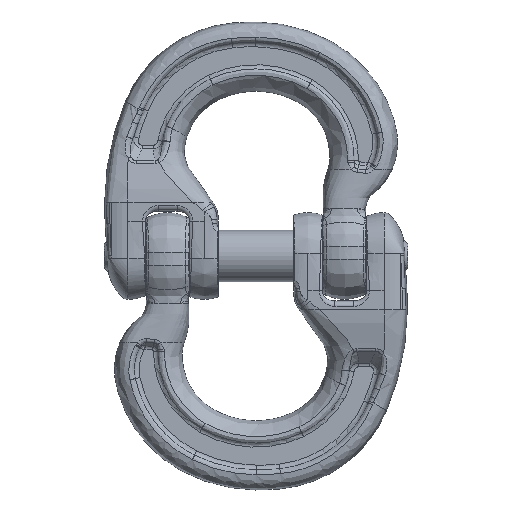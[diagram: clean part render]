
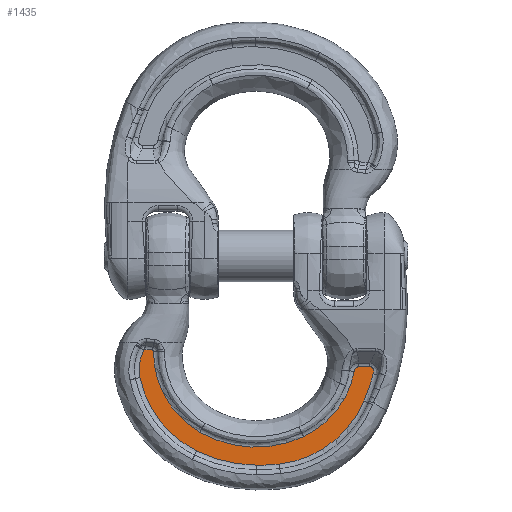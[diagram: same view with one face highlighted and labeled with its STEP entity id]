
A CAD part, top view. The second image highlights one B-rep face of the part: STEP entity #1435.
In plain terms, the highlighted planar face has unit normal (0, 0, 1).
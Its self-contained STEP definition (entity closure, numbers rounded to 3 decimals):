
#152=PLANE('',#7859);
#348=LINE('',#31555,#461);
#349=LINE('',#31604,#462);
#461=VECTOR('',#8761,1.);
#462=VECTOR('',#8774,1.);
#700=CIRCLE('',#7850,20.043);
#701=CIRCLE('',#7851,51.735);
#702=CIRCLE('',#7852,67.216);
#703=CIRCLE('',#7853,93.658);
#704=CIRCLE('',#7854,50.674);
#705=CIRCLE('',#7855,118.13);
#706=CIRCLE('',#7856,44.265);
#707=CIRCLE('',#7857,54.957);
#708=CIRCLE('',#7858,45.111);
#1435=ADVANCED_FACE('',(#1976),#152,.T.);
#1976=FACE_OUTER_BOUND('',#2477,.T.);
#2477=EDGE_LOOP('',(#4216,#4217,#4218,#4219,#4220,#4221,#4222,#4223,#4224,
#4225,#4226,#4227,#4228,#4229,#4230));
#4216=ORIENTED_EDGE('',*,*,#6508,.T.);
#4217=ORIENTED_EDGE('',*,*,#6509,.T.);
#4218=ORIENTED_EDGE('',*,*,#6510,.T.);
#4219=ORIENTED_EDGE('',*,*,#6511,.T.);
#4220=ORIENTED_EDGE('',*,*,#6512,.T.);
#4221=ORIENTED_EDGE('',*,*,#6513,.T.);
#4222=ORIENTED_EDGE('',*,*,#6514,.T.);
#4223=ORIENTED_EDGE('',*,*,#6515,.T.);
#4224=ORIENTED_EDGE('',*,*,#6516,.T.);
#4225=ORIENTED_EDGE('',*,*,#6517,.T.);
#4226=ORIENTED_EDGE('',*,*,#6518,.T.);
#4227=ORIENTED_EDGE('',*,*,#6519,.T.);
#4228=ORIENTED_EDGE('',*,*,#6520,.T.);
#4229=ORIENTED_EDGE('',*,*,#6521,.T.);
#4230=ORIENTED_EDGE('',*,*,#6522,.T.);
#5495=VERTEX_POINT('',#31556);
#5496=VERTEX_POINT('',#31557);
#5497=VERTEX_POINT('',#31571);
#5498=VERTEX_POINT('',#31573);
#5499=VERTEX_POINT('',#31575);
#5500=VERTEX_POINT('',#31577);
#5501=VERTEX_POINT('',#31579);
#5502=VERTEX_POINT('',#31581);
#5503=VERTEX_POINT('',#31583);
#5504=VERTEX_POINT('',#31603);
#5505=VERTEX_POINT('',#31605);
#5506=VERTEX_POINT('',#31622);
#5507=VERTEX_POINT('',#31624);
#5508=VERTEX_POINT('',#31626);
#5509=VERTEX_POINT('',#31628);
#6508=EDGE_CURVE('',#5495,#5496,#348,.T.);
#6509=EDGE_CURVE('',#5496,#5497,#7369,.T.);
#6510=EDGE_CURVE('',#5497,#5498,#700,.T.);
#6511=EDGE_CURVE('',#5498,#5499,#701,.T.);
#6512=EDGE_CURVE('',#5499,#5500,#702,.T.);
#6513=EDGE_CURVE('',#5500,#5501,#703,.T.);
#6514=EDGE_CURVE('',#5501,#5502,#704,.T.);
#6515=EDGE_CURVE('',#5502,#5503,#705,.T.);
#6516=EDGE_CURVE('',#5503,#5504,#7370,.T.);
#6517=EDGE_CURVE('',#5504,#5505,#349,.T.);
#6518=EDGE_CURVE('',#5505,#5506,#7371,.T.);
#6519=EDGE_CURVE('',#5506,#5507,#706,.T.);
#6520=EDGE_CURVE('',#5507,#5508,#707,.T.);
#6521=EDGE_CURVE('',#5508,#5509,#708,.T.);
#6522=EDGE_CURVE('',#5509,#5495,#7372,.T.);
#7369=B_SPLINE_CURVE_WITH_KNOTS('',3,(#31558,#31559,#31560,#31561,#31562,
#31563,#31564,#31565,#31566,#31567,#31568,#31569,#31570),.UNSPECIFIED.,.F.,
.F.,(4,3,3,3,4),(0.,0.112,0.326,0.593,
1.),.UNSPECIFIED.);
#7370=B_SPLINE_CURVE_WITH_KNOTS('',3,(#31584,#31585,#31586,#31587,#31588,
#31589,#31590,#31591,#31592,#31593,#31594,#31595,#31596,#31597,#31598,#31599,
#31600,#31601,#31602),.UNSPECIFIED.,.F.,.F.,(4,3,3,3,3,3,4),(0.,0.176,
0.427,0.601,0.722,0.856,
1.),.UNSPECIFIED.);
#7371=B_SPLINE_CURVE_WITH_KNOTS('',3,(#31606,#31607,#31608,#31609,#31610,
#31611,#31612,#31613,#31614,#31615,#31616,#31617,#31618,#31619,#31620,#31621),
.UNSPECIFIED.,.F.,.F.,(4,3,3,3,3,4),(0.,0.037,0.205,
0.397,0.633,1.),.UNSPECIFIED.);
#7372=B_SPLINE_CURVE_WITH_KNOTS('',3,(#31629,#31630,#31631,#31632,#31633,
#31634,#31635,#31636,#31637,#31638,#31639,#31640,#31641,#31642,#31643,#31644),
.UNSPECIFIED.,.F.,.F.,(4,3,3,3,3,4),(0.,0.176,0.463,
0.671,0.826,1.),.UNSPECIFIED.);
#7850=AXIS2_PLACEMENT_3D('',#31572,#8762,#8763);
#7851=AXIS2_PLACEMENT_3D('',#31574,#8764,#8765);
#7852=AXIS2_PLACEMENT_3D('',#31576,#8766,#8767);
#7853=AXIS2_PLACEMENT_3D('',#31578,#8768,#8769);
#7854=AXIS2_PLACEMENT_3D('',#31580,#8770,#8771);
#7855=AXIS2_PLACEMENT_3D('',#31582,#8772,#8773);
#7856=AXIS2_PLACEMENT_3D('',#31623,#8775,#8776);
#7857=AXIS2_PLACEMENT_3D('',#31625,#8777,#8778);
#7858=AXIS2_PLACEMENT_3D('',#31627,#8779,#8780);
#7859=AXIS2_PLACEMENT_3D('',#31645,#8781,#8782);
#8761=DIRECTION('',(-0.996,0.087,0.));
#8762=DIRECTION('',(0.,0.,1.));
#8763=DIRECTION('',(1.,0.,0.));
#8764=DIRECTION('',(0.,0.,1.));
#8765=DIRECTION('',(1.,0.,0.));
#8766=DIRECTION('',(0.,0.,1.));
#8767=DIRECTION('',(1.,0.,0.));
#8768=DIRECTION('',(0.,0.,1.));
#8769=DIRECTION('',(1.,0.,0.));
#8770=DIRECTION('',(0.,0.,1.));
#8771=DIRECTION('',(1.,0.,0.));
#8772=DIRECTION('',(0.,0.,1.));
#8773=DIRECTION('',(1.,0.,0.));
#8774=DIRECTION('',(-1.,0.,0.));
#8775=DIRECTION('',(0.,0.,-1.));
#8776=DIRECTION('',(1.,0.,0.));
#8777=DIRECTION('',(0.,0.,-1.));
#8778=DIRECTION('',(1.,0.,0.));
#8779=DIRECTION('',(0.,0.,-1.));
#8780=DIRECTION('',(1.,0.,0.));
#8781=DIRECTION('',(0.,0.,1.));
#8782=DIRECTION('',(1.,0.,0.));
#31555=CARTESIAN_POINT('',(-54.371,-7.216,9.5));
#31556=CARTESIAN_POINT('',(-50.391,-7.564,9.5));
#31557=CARTESIAN_POINT('',(-54.282,-7.224,9.5));
#31558=CARTESIAN_POINT('',(-54.282,-7.224,9.5));
#31559=CARTESIAN_POINT('',(-54.304,-7.222,9.5));
#31560=CARTESIAN_POINT('',(-54.327,-7.222,9.5));
#31561=CARTESIAN_POINT('',(-54.349,-7.225,9.5));
#31562=CARTESIAN_POINT('',(-54.392,-7.229,9.5));
#31563=CARTESIAN_POINT('',(-54.434,-7.242,9.5));
#31564=CARTESIAN_POINT('',(-54.473,-7.26,9.5));
#31565=CARTESIAN_POINT('',(-54.521,-7.283,9.5));
#31566=CARTESIAN_POINT('',(-54.566,-7.315,9.5));
#31567=CARTESIAN_POINT('',(-54.605,-7.351,9.5));
#31568=CARTESIAN_POINT('',(-54.664,-7.406,9.5));
#31569=CARTESIAN_POINT('',(-54.713,-7.473,9.5));
#31570=CARTESIAN_POINT('',(-54.751,-7.545,9.5));
#31571=CARTESIAN_POINT('',(-54.751,-7.545,9.5));
#31572=CARTESIAN_POINT('',(-37.019,-16.889,9.5));
#31573=CARTESIAN_POINT('',(-56.637,-20.998,9.5));
#31574=CARTESIAN_POINT('',(-6.,-10.392,9.5));
#31575=CARTESIAN_POINT('',(-28.991,-56.739,9.5));
#31576=CARTESIAN_POINT('',(0.879,3.476,9.5));
#31577=CARTESIAN_POINT('',(0.134,-63.736,9.5));
#31578=CARTESIAN_POINT('',(1.173,29.917,9.5));
#31579=CARTESIAN_POINT('',(11.394,-63.182,9.5));
#31580=CARTESIAN_POINT('',(5.864,-12.811,9.5));
#31581=CARTESIAN_POINT('',(52.589,-32.423,9.5));
#31582=CARTESIAN_POINT('',(-56.336,13.296,9.5));
#31583=CARTESIAN_POINT('',(57.245,-19.172,9.5));
#31584=CARTESIAN_POINT('',(57.245,-19.172,9.5));
#31585=CARTESIAN_POINT('',(57.318,-18.916,9.5));
#31586=CARTESIAN_POINT('',(57.371,-18.654,9.5));
#31587=CARTESIAN_POINT('',(57.4,-18.389,9.5));
#31588=CARTESIAN_POINT('',(57.441,-18.015,9.5));
#31589=CARTESIAN_POINT('',(57.432,-17.629,9.5));
#31590=CARTESIAN_POINT('',(57.353,-17.262,9.5));
#31591=CARTESIAN_POINT('',(57.299,-17.006,9.5));
#31592=CARTESIAN_POINT('',(57.207,-16.754,9.5));
#31593=CARTESIAN_POINT('',(57.074,-16.53,9.5));
#31594=CARTESIAN_POINT('',(56.98,-16.373,9.5));
#31595=CARTESIAN_POINT('',(56.863,-16.226,9.5));
#31596=CARTESIAN_POINT('',(56.727,-16.104,9.5));
#31597=CARTESIAN_POINT('',(56.578,-15.969,9.5));
#31598=CARTESIAN_POINT('',(56.401,-15.86,9.5));
#31599=CARTESIAN_POINT('',(56.213,-15.788,9.5));
#31600=CARTESIAN_POINT('',(56.011,-15.711,9.5));
#31601=CARTESIAN_POINT('',(55.791,-15.675,9.5));
#31602=CARTESIAN_POINT('',(55.575,-15.675,9.5));
#31603=CARTESIAN_POINT('',(55.575,-15.675,9.5));
#31604=CARTESIAN_POINT('',(50.274,-15.675,9.5));
#31605=CARTESIAN_POINT('',(50.203,-15.675,9.5));
#31606=CARTESIAN_POINT('',(50.203,-15.675,9.5));
#31607=CARTESIAN_POINT('',(50.158,-15.675,9.5));
#31608=CARTESIAN_POINT('',(50.114,-15.676,9.5));
#31609=CARTESIAN_POINT('',(50.069,-15.68,9.5));
#31610=CARTESIAN_POINT('',(49.872,-15.695,9.5));
#31611=CARTESIAN_POINT('',(49.675,-15.745,9.5));
#31612=CARTESIAN_POINT('',(49.493,-15.825,9.5));
#31613=CARTESIAN_POINT('',(49.286,-15.916,9.5));
#31614=CARTESIAN_POINT('',(49.094,-16.046,9.5));
#31615=CARTESIAN_POINT('',(48.927,-16.199,9.5));
#31616=CARTESIAN_POINT('',(48.722,-16.387,9.5));
#31617=CARTESIAN_POINT('',(48.549,-16.613,9.5));
#31618=CARTESIAN_POINT('',(48.409,-16.854,9.5));
#31619=CARTESIAN_POINT('',(48.194,-17.227,9.5));
#31620=CARTESIAN_POINT('',(48.051,-17.646,9.5));
#31621=CARTESIAN_POINT('',(47.969,-18.069,9.5));
#31622=CARTESIAN_POINT('',(47.969,-18.069,9.5));
#31623=CARTESIAN_POINT('',(4.503,-9.698,9.5));
#31624=CARTESIAN_POINT('',(23.146,-49.845,9.5));
#31625=CARTESIAN_POINT('',(0.,0.,9.5));
#31626=CARTESIAN_POINT('',(-27.479,-47.594,9.5));
#31627=CARTESIAN_POINT('',(-4.923,-8.527,9.5));
#31628=CARTESIAN_POINT('',(-50.032,-8.096,9.5));
#31629=CARTESIAN_POINT('',(-50.032,-8.096,9.5));
#31630=CARTESIAN_POINT('',(-50.032,-8.054,9.5));
#31631=CARTESIAN_POINT('',(-50.034,-8.013,9.5));
#31632=CARTESIAN_POINT('',(-50.04,-7.972,9.5));
#31633=CARTESIAN_POINT('',(-50.05,-7.905,9.5));
#31634=CARTESIAN_POINT('',(-50.069,-7.839,9.5));
#31635=CARTESIAN_POINT('',(-50.1,-7.779,9.5));
#31636=CARTESIAN_POINT('',(-50.122,-7.736,9.5));
#31637=CARTESIAN_POINT('',(-50.15,-7.695,9.5));
#31638=CARTESIAN_POINT('',(-50.185,-7.661,9.5));
#31639=CARTESIAN_POINT('',(-50.211,-7.635,9.5));
#31640=CARTESIAN_POINT('',(-50.242,-7.613,9.5));
#31641=CARTESIAN_POINT('',(-50.274,-7.597,9.5));
#31642=CARTESIAN_POINT('',(-50.311,-7.579,9.5));
#31643=CARTESIAN_POINT('',(-50.351,-7.568,9.5));
#31644=CARTESIAN_POINT('',(-50.391,-7.564,9.5));
#31645=CARTESIAN_POINT('',(0.,0.,9.5));
